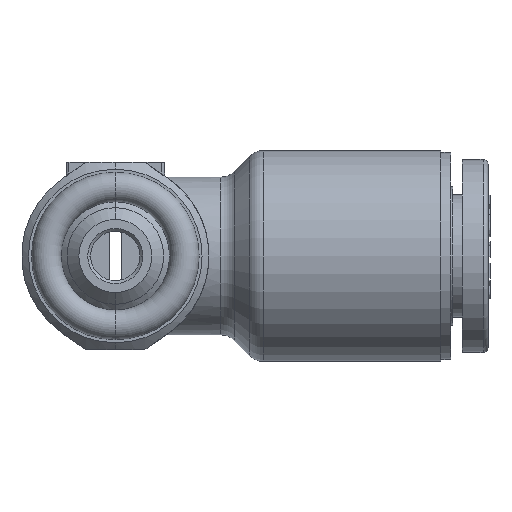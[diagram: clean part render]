
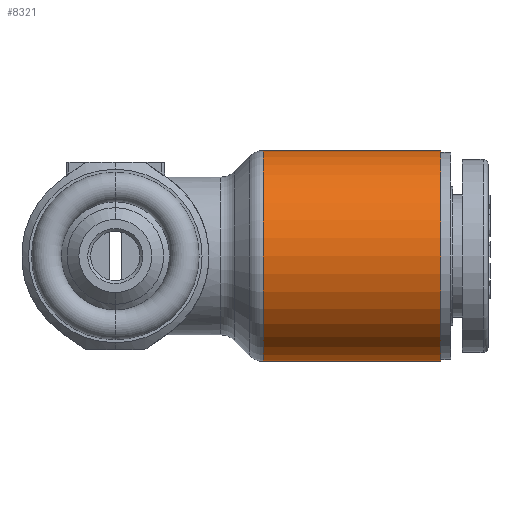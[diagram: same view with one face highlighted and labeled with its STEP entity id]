
A CAD part, front view. The second image highlights one B-rep face of the part: STEP entity #8321.
In plain terms, the highlighted cylindrical face has radius 5.35 mm (diameter 10.7 mm), a partial arc.
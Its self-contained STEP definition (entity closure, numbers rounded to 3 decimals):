
#57 = EDGE_CURVE ( 'NONE', #13733, #2490, #652, .T. ) ;
#180 = CARTESIAN_POINT ( 'NONE',  ( 7.514, 7.4, 0. ) ) ;
#500 = CIRCLE ( 'NONE', #14445, 5.35 ) ;
#652 = LINE ( 'NONE', #7512, #9089 ) ;
#1336 = DIRECTION ( 'NONE',  ( 0., 0., -1. ) ) ;
#2249 = ORIENTED_EDGE ( 'NONE', *, *, #6067, .F. ) ;
#2490 = VERTEX_POINT ( 'NONE', #10032 ) ;
#2891 = CARTESIAN_POINT ( 'NONE',  ( 16.5, 7.4, 0. ) ) ;
#2901 = ORIENTED_EDGE ( 'NONE', *, *, #57, .T. ) ;
#3528 = ORIENTED_EDGE ( 'NONE', *, *, #4533, .F. ) ;
#3977 = VERTEX_POINT ( 'NONE', #5714 ) ;
#4105 = DIRECTION ( 'NONE',  ( 1., 0., 0. ) ) ;
#4135 = ORIENTED_EDGE ( 'NONE', *, *, #13267, .T. ) ;
#4533 = EDGE_CURVE ( 'NONE', #3977, #13255, #12172, .T. ) ;
#4835 = CARTESIAN_POINT ( 'NONE',  ( 16.5, 7.4, 0. ) ) ;
#5025 = EDGE_LOOP ( 'NONE', ( #3528, #4135, #2901, #2249 ) ) ;
#5603 = DIRECTION ( 'NONE',  ( 1., 0., 0. ) ) ;
#5714 = CARTESIAN_POINT ( 'NONE',  ( 7.514, 7.4, 5.35 ) ) ;
#5890 = AXIS2_PLACEMENT_3D ( 'NONE', #2891, #4105, #8697 ) ;
#5996 = DIRECTION ( 'NONE',  ( 0., 0., -1. ) ) ;
#6067 = EDGE_CURVE ( 'NONE', #13255, #2490, #500, .T. ) ;
#6199 = VECTOR ( 'NONE', #5603, 1000. ) ;
#6965 = DIRECTION ( 'NONE',  ( 1., 0., 0. ) ) ;
#7234 = AXIS2_PLACEMENT_3D ( 'NONE', #180, #8249, #1336 ) ;
#7512 = CARTESIAN_POINT ( 'NONE',  ( 16.5, 7.4, -5.35 ) ) ;
#8249 = DIRECTION ( 'NONE',  ( 1., 0., 0. ) ) ;
#8321 = ADVANCED_FACE ( 'NONE', ( #12237 ), #10846, .T. ) ;
#8697 = DIRECTION ( 'NONE',  ( 0., 0., -1. ) ) ;
#9089 = VECTOR ( 'NONE', #6965, 1000. ) ;
#9877 = CARTESIAN_POINT ( 'NONE',  ( 7.514, 7.4, -5.35 ) ) ;
#10032 = CARTESIAN_POINT ( 'NONE',  ( 16.5, 7.4, -5.35 ) ) ;
#10432 = CARTESIAN_POINT ( 'NONE',  ( 16.5, 7.4, 5.35 ) ) ;
#10846 = CYLINDRICAL_SURFACE ( 'NONE', #5890, 5.35 ) ;
#12172 = LINE ( 'NONE', #12343, #6199 ) ;
#12237 = FACE_OUTER_BOUND ( 'NONE', #5025, .T. ) ;
#12343 = CARTESIAN_POINT ( 'NONE',  ( 16.5, 7.4, 5.35 ) ) ;
#12739 = DIRECTION ( 'NONE',  ( 1., 0., 0. ) ) ;
#13254 = CIRCLE ( 'NONE', #7234, 5.35 ) ;
#13255 = VERTEX_POINT ( 'NONE', #10432 ) ;
#13267 = EDGE_CURVE ( 'NONE', #3977, #13733, #13254, .T. ) ;
#13733 = VERTEX_POINT ( 'NONE', #9877 ) ;
#14445 = AXIS2_PLACEMENT_3D ( 'NONE', #4835, #12739, #5996 ) ;
